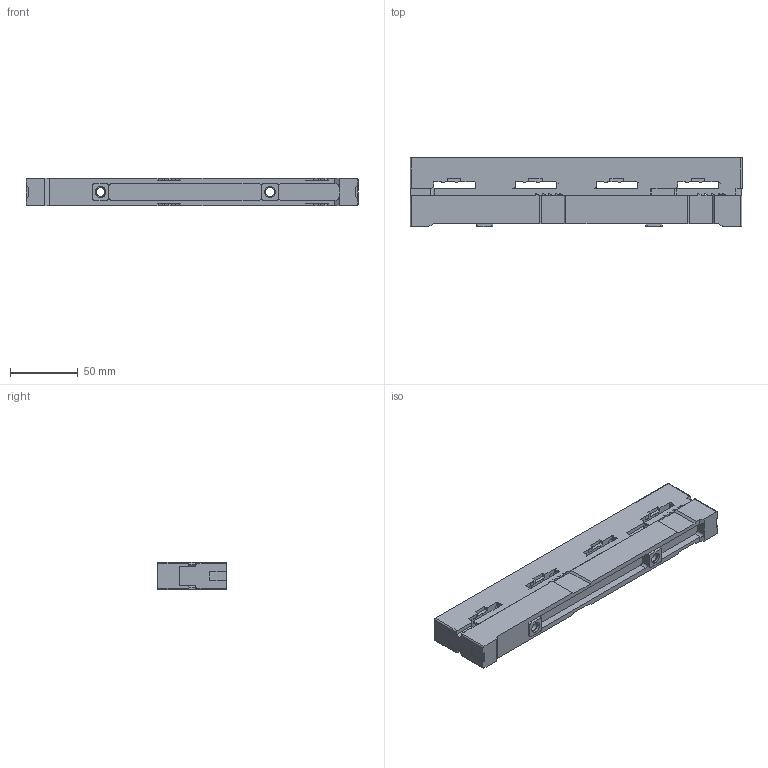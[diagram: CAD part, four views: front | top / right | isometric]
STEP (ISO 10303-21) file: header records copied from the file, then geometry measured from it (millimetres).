
FILE_DESCRIPTION (( 'STEP AP203' ), '1' );
FILE_NAME ('52485.STEP', '2020-11-25T04:51:00', ( '' ), ( '' ), 'SwSTEP 2.0', 'SolidWorks 2017', '' );
FILE_SCHEMA (( 'CONFIG_CONTROL_DESIGN' ));
Length unit declared in the file: millimetre
Products named in the file (2): 52485
Bounding box: 245 x 51 x 20 mm (x, y, z)
Volume: 189340.1 mm3; surface area: 76369.5 mm2
Topology: 15 solids, 17 shells, 2245 faces, 6347 edges, 4211 vertices
Faces by surface type: plane 1487, cylinder 587, bspline 135, cone 31, torus 5
Full cylindrical faces by diameter (mm): 3.3 x6, 4 x6, 4.2 x5, 5 x5, 5.5 x5, 6.5 x7, 7.002 x5, 8 x2, 10 x5, 10.5 x13
Entity records: 80123 total; most frequent: CARTESIAN_POINT 23622, ORIENTED_EDGE 12486, DIRECTION 10475, EDGE_CURVE 6243, VERTEX_POINT 4200, VECTOR 4041, LINE 4041, AXIS2_PLACEMENT_3D 3217
